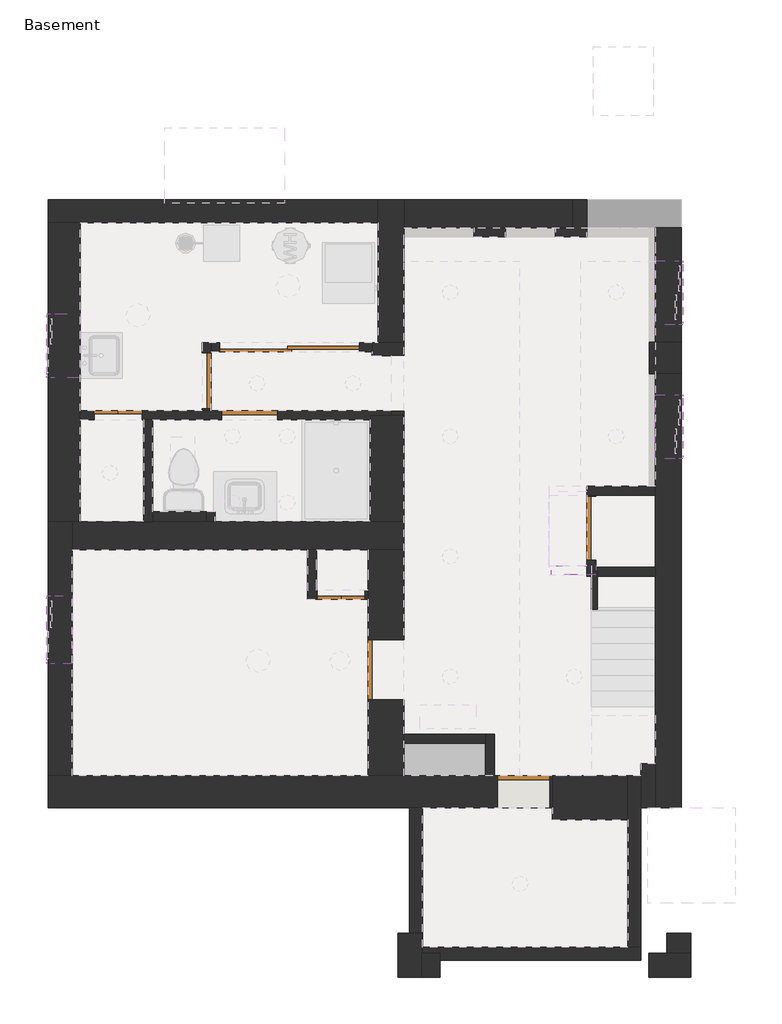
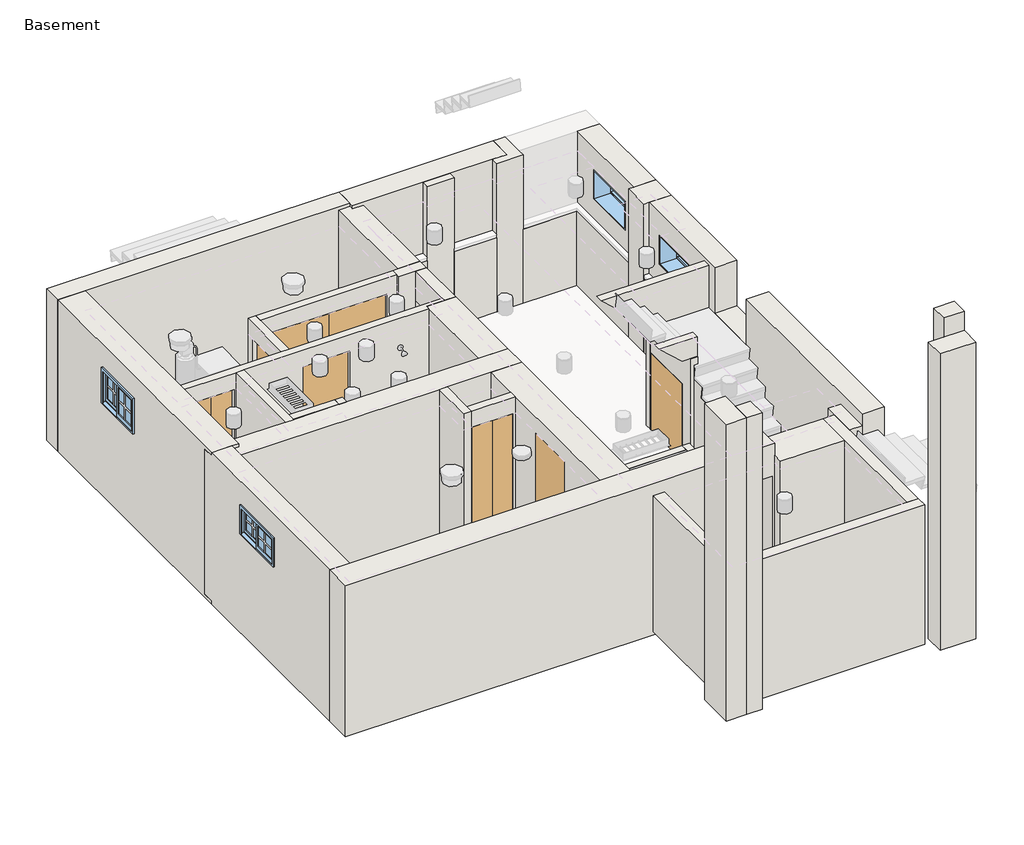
# One storey, part 1 of 2: 45 walls, 8 doors, 4 windows.
"""IFC4 building model written with IfcOpenShell, lengths in millimetres."""

from ifc_helpers import new_model, si_unit, frame, origin, place, context, project, spatial, polyline, outline, extrude, faceted_brep, transform, mapped, element, save
from components import door_2ab74324, door_d050fe0c, door_e4ab5b85, door_826f4222, door_96be22bb, door_c3be8931, window_6e3eade2, window_9998ee06, window_06d2bc5f

model = new_model("IFC4")

# Units and contexts
model_context = context("Model", 3, world=origin())
ifc_project = project(units=[si_unit("LENGTHUNIT", "METRE", prefix="MILLI")], contexts=[model_context])

# Site, building, storey
site = spatial("IfcSite", under=ifc_project)
building = spatial("IfcBuilding", under=site)
storey = spatial("IfcBuildingStorey", under=building, Name="Basement", Elevation=-2336.8)

# Doors
placement = place(None, origin())
door_shape = door_2ab74324(model_context)
element("IfcDoor", 1, ObjectType="Planitar - Single Door_Flush Panel : 2'-4\" x 6'-8\" @45", at=placement, inside=storey, context=model_context, shape_type="MappedRepresentation", body=[
    mapped(door_shape, transform((-3499.25, 3651.25, -2336.8), x_axis=(-1.0, 0.0, 0.0), y_axis=(0.0, -1.0, 0.0), z_axis=(0.0, 0.0, 1.0))),
])
element("IfcDoor", 2, ObjectType="Planitar - Single Door_Flush Panel : 2'-4\" x 6'-8\" @45", at=placement, inside=storey, context=model_context, shape_type="MappedRepresentation", body=[
    mapped(door_shape, transform((-4046.15, 4090.8, -2336.8), x_axis=(0.0, 1.0, 0.0), y_axis=(-1.0, 0.0, 0.0), z_axis=(0.0, 0.0, 1.0))),
])
door_2_shape = door_d050fe0c(model_context)
element("IfcDoor", 3, ObjectType="Planitar - Fold Door : 2'-0\" x 6'-8\"", at=placement, inside=storey, context=model_context, shape_type="MappedRepresentation", body=[
    mapped(door_2_shape, transform((-5170.65, 3651.25, -2336.8), x_axis=(-1.0, 0.0, 0.0), y_axis=(0.0, -1.0, 0.0), z_axis=(0.0, 0.0, 1.0))),
])
element("IfcDoor", 4, ObjectType="Planitar - Fold Door : 2'-0\" x 6'-8\"", at=placement, inside=storey, context=model_context, shape_type="MappedRepresentation", body=[
    mapped(door_2_shape, transform((-2338.0, 1377.95, -2336.8), x_axis=(1.0, 0.0, 0.0), y_axis=(0.0, 1.0, 0.0), z_axis=(0.0, 0.0, 1.0))),
])
door_3_shape = door_e4ab5b85(model_context)
element("IfcDoor", 5, ObjectType="Planitar - Single Door_Flush Panel : 2'-2\" x 6'-8\"", at=placement, inside=storey, context=model_context, shape_type="MappedRepresentation", body=[
    mapped(door_3_shape, transform((-20.25, -1123.95, -2336.8), x_axis=(-1.0, 0.0, 0.0), y_axis=(0.0, -1.0, 0.0), z_axis=(0.0, 0.0, 1.0))),
])
door_4_shape = door_826f4222(model_context)
element("IfcDoor", 6, ObjectType="Planitar - Single Door_Flush Panel : 2'-6\" x 6'-8\"", at=placement, inside=storey, context=model_context, shape_type="MappedRepresentation", body=[
    mapped(door_4_shape, transform((-1766.5, 426.85, -2336.8), x_axis=(0.0, 1.0, 0.0), y_axis=(-1.0, 0.0, 0.0), z_axis=(0.0, 0.0, 1.0))),
])
door_5_shape = door_96be22bb(model_context)
element("IfcDoor", 7, ObjectType="Planitar - Single Door_Flush Panel : 2'-8\" x 6'-8\"", at=placement, inside=storey, context=model_context, shape_type="MappedRepresentation", body=[
    mapped(door_5_shape, transform((837.0, 2217.4070949, -2336.8), x_axis=(0.0, -1.0, 0.0), y_axis=(1.0, 0.0, 0.0), z_axis=(0.0, 0.0, 1.0))),
])
door_6_shape = door_c3be8931(model_context)
element("IfcDoor", 8, ObjectType="Planitar - Double Sliding Door_Flush Panel : 5'-10\" x 6'-8\"", at=placement, inside=storey, context=model_context, shape_type="MappedRepresentation", body=[
    mapped(door_6_shape, transform((-2991.25, 4511.675, -2336.8), x_axis=(1.0, 0.0, 0.0), y_axis=(0.0, 1.0, 0.0), z_axis=(0.0, 0.0, 1.0))),
])

# Walls
element("IfcWall", 9, ObjectType="Planitar - Generic 11 1/2\"", at=placement, inside=storey, context=model_context, shape_type="Brep", body=[
    faceted_brep([(-6059.1, 6096.0, 0.0), (-6059.1, 6096.0, -2387.6), (-5652.7, 6096.0, -2387.6), (-1706.8, 6096.0, -2387.6), (-1706.8, 6096.0, -2336.8), (-1871.9, 6096.0, -2336.8), (-1871.9, 6096.0, -50.8), (-1703.0, 6096.0, -50.8), (-1703.0, 6096.0, 0.0), (-5652.7, 6096.0, 0.0), (-6059.1, 6388.1, -2387.6), (-6059.1, 6388.1, -889.0), (-6059.1, 6388.1, -660.4), (-6059.1, 6388.1, 0.0), (-1868.1, 6388.1, 0.0), (-1703.0, 6388.1, 0.0), (-1703.0, 6388.1, -50.8), (-1871.9, 6388.1, -50.8), (-1871.9, 6388.1, -2336.8), (-1706.8, 6388.1, -2336.8), (-1706.8, 6388.1, -2387.6), (-1703.0, 6121.4, 0.0)], [[[0, 1, 2, 3, 4, 5, 6, 7, 8, 9]], [[10, 11, 12, 13, 14, 15, 16, 17, 18, 19, 20]], [[3, 2, 1, 10, 20]], [[0, 9, 8, 21, 15, 14, 13]], [[4, 3, 20, 19]], [[18, 5, 4, 19]], [[16, 7, 6, 17]], [[5, 18, 17, 6]], [[8, 7, 16, 15, 21]], [[0, 13, 12, 11, 10, 1]]]),
])
element("IfcWall", 10, ObjectType="Planitar - Generic 1' - 1\"", at=placement, inside=storey, context=model_context, shape_type="Brep", body=[
    faceted_brep([(1649.8, 6032.5, 0.0), (1649.8, 6032.5, -2387.6), (1649.8, 4577.0, -2387.6), (1649.8, 4577.0, -2336.8), (1649.8, 4577.0, -1168.4), (1649.8, 4577.0, 0.0), (1649.8, 4798.3616843, -355.6), (1649.8, 4798.3616843, -812.8), (1649.8, 5611.1616843, -812.8), (1649.8, 5611.1616843, -355.6), (1980.0, 6032.5, -2387.6), (1980.0, 6032.5, 0.0), (1980.0, 4577.0, 0.0), (1980.0, 4577.0, -2387.6), (1980.0, 4798.3616843, -355.6), (1980.0, 5611.1616843, -355.6), (1980.0, 5611.1616843, -812.8), (1980.0, 4798.3616843, -812.8)], [[[0, 1, 2, 3, 4, 5], [6, 7, 8, 9]], [[10, 11, 12, 13], [14, 15, 16, 17]], [[2, 1, 10, 13]], [[0, 5, 12, 11]], [[2, 13, 12, 5, 4, 3]], [[0, 11, 10, 1]], [[7, 6, 14, 17]], [[8, 7, 17, 16]], [[9, 8, 16, 15]], [[6, 9, 15, 14]]]),
])
element("IfcWall", 11, ObjectType="Planitar - Generic 1' - 10\"", at=placement, inside=storey, context=model_context, shape_type="SweptSolid", body=[
    extrude(outline(polyline([(1465.65, -768.35), (1649.8, -768.35), (1649.8, -1327.15), (1465.65, -1327.15), (1465.65, -768.35)])), frame((0.0, 0.0, -2387.6), z_axis=(0.0, 0.0, 1.0), x_axis=(1.0, 0.0, 0.0)), (0.0, 0.0, 1.0), 2209.8),
])
element("IfcWall", 12, ObjectType="Planitar - Generic 1' - 0\"", at=placement, inside=storey, context=model_context, shape_type="SweptSolid", body=[
    extrude(outline(polyline([(-920.75, -2387.6), (-920.75, 0.0), (2127.25, 0.0), (2127.25, -50.8), (2305.05, -50.8), (2305.05, -2336.8), (2127.25, -2336.8), (2127.25, -2387.6), (-920.75, -2387.6)]), holes=[polyline([(1365.25, -355.6), (501.65, -355.6), (501.65, -812.8), (1365.25, -812.8), (1365.25, -355.6)])]), frame((-6059.1, 0.0, 0.0), z_axis=(1.0, 0.0, 0.0), x_axis=(0.0, 1.0, 0.0)), (0.0, 0.0, 1.0), 304.8),
])
element("IfcWall", 13, ObjectType="Planitar - Generic 1' - 4\"", at=placement, inside=storey, context=model_context, shape_type="Brep", body=[
    faceted_brep([(-5652.7, 2127.25, -2387.6), (-5652.7, 6096.0, -2387.6), (-5652.7, 6096.0, 0.0), (-5652.7, 2127.25, 0.0), (-5652.7, 2127.25, -50.8), (-5652.7, 2305.05, -50.8), (-5652.7, 2305.05, -2336.8), (-5652.7, 2127.25, -2336.8), (-5652.7, 4940.3, -355.6), (-5652.7, 4940.3, -914.4), (-5652.7, 4127.5, -914.4), (-5652.7, 4127.5, -355.6), (-6059.1, 2127.25, -2387.6), (-6059.1, 2127.25, -2336.8), (-6059.1, 2305.05, -2336.8), (-6059.1, 2305.05, -50.8), (-6059.1, 2127.25, -50.8), (-6059.1, 2127.25, 0.0), (-6059.1, 6096.0, 0.0), (-6059.1, 6096.0, -2387.6), (-6059.1, 4940.3, -355.6), (-6059.1, 4127.5, -355.6), (-6059.1, 4127.5, -914.4), (-6059.1, 4940.3, -914.4), (-5754.3, 2127.25, -2387.6), (-5754.3, 2127.25, 0.0), (-5754.3, 2127.25, -2336.8), (-5754.3, 2305.05, -2336.8), (-5754.3, 2127.25, -50.8), (-5754.3, 2305.05, -50.8)], [[[0, 1, 2, 3, 4, 5, 6, 7], [8, 9, 10, 11]], [[12, 13, 14, 15, 16, 17, 18, 19], [20, 21, 22, 23]], [[1, 0, 24, 12, 19]], [[3, 2, 18, 17, 25]], [[0, 7, 26, 13, 12, 24]], [[6, 27, 14, 13, 26, 7]], [[4, 3, 25, 17, 16, 28]], [[4, 28, 16, 15, 29, 5]], [[6, 5, 29, 15, 14, 27]], [[9, 8, 20, 23]], [[10, 9, 23, 22]], [[11, 10, 22, 21]], [[8, 11, 21, 20]], [[1, 19, 18, 2]]]),
])
element("IfcWall", 14, ObjectType="Planitar - Generic 6 1/2\"", at=placement, inside=storey, context=model_context, shape_type="Brep", body=[
    faceted_brep([(1300.55, -920.75, -2336.8), (1300.55, -1479.55, -2336.8), (1300.55, -3098.8, -2336.8), (1300.55, -3098.8, -190.5), (1300.55, -1479.55, -190.5), (1300.55, -920.75, -190.5), (1465.65, -920.75, -2336.8), (1465.65, -920.75, -190.5), (1465.65, -3098.8, -190.5), (1465.65, -3098.8, -2336.8)], [[[0, 1, 2, 3, 4, 5]], [[6, 7, 8, 9]], [[2, 1, 0, 6, 9]], [[3, 2, 9, 8]], [[5, 4, 3, 8, 7]], [[0, 5, 7, 6]]]),
])
element("IfcWall", 15, ObjectType="Planitar - Generic 6 1/2\"", at=placement, inside=storey, context=model_context, shape_type="Brep", body=[
    faceted_brep([(1465.65, -3098.8, -2387.6), (-1468.05, -3098.8, -2387.6), (-1468.05, -3098.8, -2336.8), (-1468.05, -3098.8, -190.5), (-1302.95, -3098.8, -190.5), (1300.55, -3098.8, -190.5), (1465.65, -3098.8, -190.5), (1465.65, -3098.8, -2336.8), (1465.65, -3263.9, -2387.6), (1465.65, -3263.9, -190.5), (-1468.05, -3263.9, -190.5), (-1468.05, -3263.9, -2387.6)], [[[0, 1, 2, 3, 4, 5, 6, 7]], [[8, 9, 10, 11]], [[1, 0, 8, 11]], [[3, 2, 1, 11, 10]], [[6, 5, 4, 3, 10, 9]], [[0, 7, 6, 9, 8]]]),
])
element("IfcWall", 16, ObjectType="Planitar - Generic 6 1/2\"", at=placement, inside=storey, context=model_context, shape_type="SweptSolid", body=[
    extrude(outline(polyline([(-1302.95, -1327.15), (-1302.95, -3098.8), (-1468.05, -3098.8), (-1468.05, -1327.15), (-1302.95, -1327.15)])), frame((0.0, 0.0, -2336.8), z_axis=(0.0, 0.0, 1.0), x_axis=(1.0, 0.0, 0.0)), (0.0, 0.0, 1.0), 2146.3),
])
element("IfcWall", 17, ObjectType="Planitar - Generic 1' - 2\"", at=placement, inside=storey, context=model_context, shape_type="Brep", body=[
    faceted_brep([(-5754.3, 1949.45, -2336.8), (-2763.45, 1949.45, -2336.8), (-2649.15, 1949.45, -2336.8), (-1995.1, 1949.45, -2336.8), (-1537.9, 1949.45, -2336.8), (-1537.9, 1949.45, -50.8), (-1995.1, 1949.45, -50.8), (-2649.15, 1949.45, -50.8), (-2763.45, 1949.45, -50.8), (-5754.3, 1949.45, -50.8), (-5754.3, 2305.05, -2336.8), (-5754.3, 2305.05, -50.8), (-5652.7, 2305.05, -50.8), (-4846.25, 2305.05, -50.8), (-4731.95, 2305.05, -50.8), (-4052.5, 2305.05, -50.8), (-3938.2, 2305.05, -50.8), (-1969.7, 2305.05, -50.8), (-1537.9, 2305.05, -50.8), (-1537.9, 2305.05, -2336.8), (-1969.7, 2305.05, -2336.8), (-3938.2, 2305.05, -2336.8), (-4052.5, 2305.05, -2336.8), (-4731.95, 2305.05, -2336.8), (-4846.25, 2305.05, -2336.8), (-5652.7, 2305.05, -2336.8), (-5754.3, 2127.25, -2336.8), (-5754.3, 2127.25, -50.8)], [[[0, 1, 2, 3, 4, 5, 6, 7, 8, 9]], [[10, 11, 12, 13, 14, 15, 16, 17, 18, 19, 20, 21, 22, 23, 24, 25]], [[4, 3, 2, 1, 0, 26, 10, 25, 24, 23, 22, 21, 20, 19]], [[9, 8, 7, 6, 5, 18, 17, 16, 15, 14, 13, 12, 11, 27]], [[5, 4, 19, 18]], [[0, 9, 27, 11, 10, 26]]]),
])
element("IfcWall", 18, ObjectType="Planitar - Generic 1' - 1\"", at=placement, inside=storey, context=model_context, shape_type="Brep", body=[
    faceted_brep([(-1871.9, 6388.1, -50.8), (-1871.9, 6388.1, -2336.8), (-1871.9, 6096.0, -2336.8), (-1871.9, 4572.0, -2336.8), (-1871.9, 4572.0, -50.8), (-1871.9, 6096.0, -50.8), (-1541.7, 6388.1, -2336.8), (-1541.7, 6388.1, -50.8), (-1541.7, 6032.5, -50.8), (-1541.7, 4572.0, -50.8), (-1541.7, 4572.0, -2336.8), (-1541.7, 5918.2, -2336.8), (-1541.7, 5994.4, -2336.8), (-1541.7, 6032.5, -2336.8), (-1785.55, 6388.1, -2336.8), (-1706.8, 6388.1, -2336.8), (-1703.0, 6388.1, -50.8)], [[[0, 1, 2, 3, 4, 5]], [[6, 7, 8, 9, 10, 11, 12, 13]], [[3, 2, 1, 14, 15, 6, 13, 12, 11, 10]], [[0, 5, 4, 9, 8, 7, 16]], [[4, 3, 10, 9]], [[0, 16, 7, 6, 15, 14, 1]]]),
])
element("IfcWall", 19, ObjectType="Planitar - Generic 1' - 5\"", at=placement, inside=storey, context=model_context, shape_type="Brep", body=[
    faceted_brep([(-1537.9, 2305.05, -2336.8), (-1537.9, 3651.25, -2336.8), (-1537.9, 3651.25, -50.8), (-1537.9, 2305.05, -50.8), (-1969.7, 2305.05, -2336.8), (-1969.7, 2305.05, -50.8), (-1969.7, 3594.1, -50.8), (-1969.7, 3651.25, -50.8), (-1969.7, 3651.25, -2336.8), (-1969.7, 3594.1, -2336.8), (-1703.0, 3651.25, -2336.8), (-1703.0, 3651.25, -50.8)], [[[0, 1, 2, 3]], [[4, 5, 6, 7, 8, 9]], [[1, 0, 4, 9, 8, 10]], [[2, 1, 10, 8, 7, 11]], [[3, 2, 11, 7, 6, 5]], [[0, 3, 5, 4]]]),
])
element("IfcWall", 20, ObjectType="Planitar - Generic 1' - 6\"", at=placement, inside=storey, context=model_context, shape_type="Brep", body=[
    faceted_brep([(-1995.1, -920.75, -50.8), (-1995.1, 1320.8, -50.8), (-1995.1, 1435.1, -50.8), (-1995.1, 1949.45, -50.8), (-1995.1, 1949.45, -2336.8), (-1995.1, 1435.1, -2336.8), (-1995.1, 1320.8, -2336.8), (-1995.1, 807.85, -2336.8), (-1995.1, 807.85, -304.8), (-1995.1, 45.85, -304.8), (-1995.1, 45.85, -2336.8), (-1995.1, -920.75, -2336.8), (-1537.9, 1949.45, -50.8), (-1537.9, -920.75, -50.8), (-1537.9, -920.75, -2336.8), (-1537.9, -508.0, -2336.8), (-1537.9, -393.7, -2336.8), (-1537.9, 45.85, -2336.8), (-1537.9, 45.85, -304.8), (-1537.9, 807.85, -304.8), (-1537.9, 807.85, -2336.8), (-1537.9, 1949.45, -2336.8)], [[[0, 1, 2, 3, 4, 5, 6, 7, 8, 9, 10, 11]], [[12, 13, 14, 15, 16, 17, 18, 19, 20, 21]], [[14, 11, 10, 17, 16, 15]], [[4, 21, 20, 7, 6, 5]], [[3, 2, 1, 0, 13, 12]], [[4, 3, 12, 21]], [[0, 11, 14, 13]], [[19, 8, 7, 20]], [[8, 19, 18, 9]], [[9, 18, 17, 10]]]),
])
element("IfcWall", 21, ObjectType="Planitar - Generic 6 1/2\"", at=placement, inside=storey, context=model_context, shape_type="Brep", body=[
    faceted_brep([(-1537.9, 4406.9, -50.8), (-1537.9, 3651.25, -50.8), (-1537.9, 3651.25, -2336.8), (-1537.9, 3703.45, -2336.8), (-1537.9, 3703.45, -508.0), (-1537.9, 4406.9, -508.0), (-1703.0, 3651.25, -50.8), (-1703.0, 3708.4, -50.8), (-1703.0, 4406.9, -50.8), (-1703.0, 4406.9, -508.0), (-1703.0, 3703.45, -508.0), (-1703.0, 3703.45, -2336.8), (-1703.0, 3651.25, -2336.8), (-1541.7, 4406.9, -50.8), (-1541.7, 4406.9, -508.0)], [[[0, 1, 2, 3, 4, 5]], [[6, 7, 8, 9, 10, 11, 12]], [[2, 12, 11, 3]], [[1, 0, 13, 8, 7, 6]], [[2, 1, 6, 12]], [[8, 13, 0, 5, 14, 9]], [[10, 4, 3, 11]], [[4, 10, 9, 14, 5]]]),
])
element("IfcWall", 22, ObjectType="Planitar - Generic 4 1/2\"", at=placement, inside=storey, context=model_context, shape_type="Brep", body=[
    faceted_brep([(-5652.7, 3708.4, -50.8), (-4103.3, 3708.4, -50.8), (-3989.0, 3708.4, -50.8), (-1703.0, 3708.4, -50.8), (-1703.0, 3708.4, -2336.8), (-3143.65, 3708.4, -2336.8), (-3143.65, 3708.4, -304.8), (-3854.85, 3708.4, -304.8), (-3854.85, 3708.4, -2336.8), (-3989.0, 3708.4, -2336.8), (-4103.3, 3708.4, -2336.8), (-4865.85, 3708.4, -2336.8), (-4865.85, 3708.4, -304.8), (-5475.45, 3708.4, -304.8), (-5475.45, 3708.4, -2336.8), (-5652.7, 3708.4, -2336.8), (-1969.7, 3594.1, -50.8), (-4731.95, 3594.1, -50.8), (-4846.25, 3594.1, -50.8), (-5652.7, 3594.1, -50.8), (-5652.7, 3594.1, -2336.8), (-5475.45, 3594.1, -2336.8), (-5475.45, 3594.1, -304.8), (-4865.85, 3594.1, -304.8), (-4865.85, 3594.1, -2336.8), (-4846.25, 3594.1, -2336.8), (-4731.95, 3594.1, -2336.8), (-3854.85, 3594.1, -2336.8), (-3854.85, 3594.1, -304.8), (-3143.65, 3594.1, -304.8), (-3143.65, 3594.1, -2336.8), (-1969.7, 3594.1, -2336.8), (-1703.0, 3703.45, -2336.8), (-1703.0, 3651.25, -2336.8), (-1969.7, 3651.25, -2336.8), (-1969.7, 3651.25, -50.8), (-1703.0, 3651.25, -50.8)], [[[0, 1, 2, 3, 4, 5, 6, 7, 8, 9, 10, 11, 12, 13, 14, 15]], [[16, 17, 18, 19, 20, 21, 22, 23, 24, 25, 26, 27, 28, 29, 30, 31]], [[20, 15, 14, 21]], [[4, 32, 33, 34, 31, 30, 5]], [[8, 27, 26, 25, 24, 11, 10, 9]], [[3, 2, 1, 0, 19, 18, 17, 16, 35, 36]], [[4, 3, 36, 33, 32]], [[36, 35, 34, 33]], [[16, 31, 34, 35]], [[0, 15, 20, 19]], [[7, 28, 27, 8]], [[28, 7, 6, 29]], [[29, 6, 5, 30]], [[13, 22, 21, 14]], [[22, 13, 12, 23]], [[23, 12, 11, 24]]]),
])
element("IfcWall", 23, ObjectType="Planitar - Generic 4 1/2\"", at=placement, inside=storey, context=model_context, shape_type="Brep", body=[
    faceted_brep([(-4846.25, 3594.1, -2336.8), (-4846.25, 2305.05, -2336.8), (-4846.25, 2305.05, -50.8), (-4846.25, 3594.1, -50.8), (-4731.95, 3594.1, -2336.8), (-4731.95, 3594.1, -50.8), (-4731.95, 2425.7, -50.8), (-4731.95, 2311.4, -50.8), (-4731.95, 2305.05, -50.8), (-4731.95, 2305.05, -2336.8), (-4731.95, 2311.4, -2336.8), (-4731.95, 2425.7, -2336.8)], [[[0, 1, 2, 3]], [[4, 5, 6, 7, 8, 9, 10, 11]], [[1, 0, 4, 11, 10, 9]], [[3, 2, 8, 7, 6, 5]], [[2, 1, 9, 8]], [[0, 3, 5, 4]]]),
])
element("IfcWall", 24, ObjectType="Planitar - Generic 4 1/2\"", at=placement, inside=storey, context=model_context, shape_type="SweptSolid", body=[
    extrude(outline(polyline([(-4052.5, 2311.4), (-4731.95, 2311.4), (-4731.95, 2425.7), (-4052.5, 2425.7), (-4052.5, 2311.4)])), frame((0.0, 0.0, -2336.8), z_axis=(0.0, 0.0, 1.0), x_axis=(1.0, 0.0, 0.0)), (0.0, 0.0, 1.0), 2286.0),
])
element("IfcWall", 25, ObjectType="Planitar - Generic 4 1/2\"", at=placement, inside=storey, context=model_context, shape_type="Brep", body=[
    faceted_brep([(-4052.5, 2425.7, -2336.8), (-4052.5, 2311.4, -2336.8), (-4052.5, 2305.05, -2336.8), (-4052.5, 2305.05, -50.8), (-4052.5, 2311.4, -50.8), (-4052.5, 2425.7, -50.8), (-3938.2, 2425.7, -2336.8), (-3938.2, 2425.7, -50.8), (-3938.2, 2305.05, -50.8), (-3938.2, 2305.05, -2336.8)], [[[0, 1, 2, 3, 4, 5]], [[6, 7, 8, 9]], [[2, 1, 0, 6, 9]], [[5, 4, 3, 8, 7]], [[0, 5, 7, 6]], [[3, 2, 9, 8]]]),
])
element("IfcWall", 26, ObjectType="Planitar - Generic 4 1/2\"", at=placement, inside=storey, context=model_context, shape_type="Brep", body=[
    faceted_brep([(-3989.0, 4572.0, -50.8), (-3989.0, 4457.7, -50.8), (-3989.0, 3708.4, -50.8), (-3989.0, 3708.4, -2336.8), (-3989.0, 3735.2, -2336.8), (-3989.0, 3735.2, -304.8), (-3989.0, 4446.4, -304.8), (-3989.0, 4446.4, -2336.8), (-3989.0, 4457.7, -2336.8), (-3989.0, 4572.0, -2336.8), (-4103.3, 3708.4, -50.8), (-4103.3, 4572.0, -50.8), (-4103.3, 4572.0, -2336.8), (-4103.3, 4446.4, -2336.8), (-4103.3, 4446.4, -304.8), (-4103.3, 3735.2, -304.8), (-4103.3, 3735.2, -2336.8), (-4103.3, 3708.4, -2336.8)], [[[0, 1, 2, 3, 4, 5, 6, 7, 8, 9]], [[10, 11, 12, 13, 14, 15, 16, 17]], [[3, 17, 16, 4]], [[12, 9, 8, 7, 13]], [[2, 1, 0, 11, 10]], [[3, 2, 10, 17]], [[0, 9, 12, 11]], [[6, 14, 13, 7]], [[14, 6, 5, 15]], [[15, 5, 4, 16]]]),
])
element("IfcWall", 27, ObjectType="Planitar - Generic 4 1/2\"", at=placement, inside=storey, context=model_context, shape_type="SweptSolid", body=[
    extrude(outline(polyline([(-2336.8, -1948.1), (-50.8, -1948.1), (-50.8, -3989.0), (-2336.8, -3989.0), (-2336.8, -3880.25), (-304.8, -3880.25), (-304.8, -2102.25), (-2336.8, -2102.25), (-2336.8, -1948.1)])), frame((0.0, 4457.7, 0.0), z_axis=(0.0, 1.0, 0.0), x_axis=(0.0, 0.0, 1.0)), (0.0, 0.0, 1.0), 114.3),
])
element("IfcWall", 28, ObjectType="Planitar - Generic 6 1/2\"", at=placement, inside=storey, context=model_context, shape_type="Brep", body=[
    faceted_brep([(-1541.7, 4406.9, -50.8), (-1703.0, 4406.9, -50.8), (-1948.1, 4406.9, -50.8), (-1948.1, 4406.9, -2336.8), (-1703.0, 4406.9, -2336.8), (-1703.0, 4406.9, -508.0), (-1541.7, 4406.9, -508.0), (-1541.7, 4572.0, -2336.8), (-1871.9, 4572.0, -2336.8), (-1948.1, 4572.0, -2336.8), (-1948.1, 4572.0, -50.8), (-1871.9, 4572.0, -50.8), (-1541.7, 4572.0, -50.8), (-1541.7, 4414.65, -2336.8), (-1703.0, 4414.65, -2336.8), (-1948.1, 4457.7, -2336.8), (-1948.1, 4457.7, -50.8), (-1541.7, 4414.65, -508.0), (-1703.0, 4414.65, -508.0)], [[[0, 1, 2, 3, 4, 5, 6]], [[7, 8, 9, 10, 11, 12]], [[9, 8, 7, 13, 14, 4, 3, 15]], [[2, 1, 0, 12, 11, 10, 16]], [[3, 2, 16, 10, 9, 15]], [[7, 12, 0, 6, 17, 13]], [[14, 18, 5, 4]], [[18, 14, 13, 17]], [[5, 18, 17, 6]]]),
])
element("IfcWall", 29, ObjectType="Planitar - Generic 4 1/2\"", at=placement, inside=storey, context=model_context, shape_type="Brep", body=[
    faceted_brep([(-2763.45, 1949.45, -2336.8), (-2763.45, 1320.8, -2336.8), (-2763.45, 1320.8, -50.8), (-2763.45, 1949.45, -50.8), (-2649.15, 1949.45, -2336.8), (-2649.15, 1949.45, -50.8), (-2649.15, 1435.1, -50.8), (-2649.15, 1320.8, -50.8), (-2649.15, 1320.8, -2336.8), (-2649.15, 1435.1, -2336.8)], [[[0, 1, 2, 3]], [[4, 5, 6, 7, 8, 9]], [[1, 0, 4, 9, 8]], [[3, 2, 7, 6, 5]], [[0, 3, 5, 4]], [[2, 1, 8, 7]]]),
])
element("IfcWall", 30, ObjectType="Planitar - Generic 4 1/2\"", at=placement, inside=storey, context=model_context, shape_type="SweptSolid", body=[
    extrude(outline(polyline([(-50.8, -1995.1), (-50.8, -2649.15), (-2336.8, -2649.15), (-2336.8, -2642.8), (-304.8, -2642.8), (-304.8, -2033.2), (-2336.8, -2033.2), (-2336.8, -1995.1), (-50.8, -1995.1)])), frame((0.0, 1320.8, 0.0), z_axis=(0.0, 1.0, 0.0), x_axis=(0.0, 0.0, 1.0)), (0.0, 0.0, 1.0), 114.3),
])
element("IfcWall", 31, ObjectType="Planitar - Generic 4 1/2\"", at=placement, inside=storey, context=model_context, shape_type="Brep", body=[
    faceted_brep([(1649.8, 2750.6641898, -2336.8), (1573.6, 2750.6641898, -2336.8), (779.85, 2750.6641898, -2336.8), (779.85, 2750.6641898, -709.8838542), (47.8632232, 2750.6641898, -50.8), (1649.8, 2750.6641898, -50.8), (1649.8, 2750.6641898, -1168.4), (1649.8, 2636.3641898, -2336.8), (1649.8, 2636.3641898, -50.8), (47.8632232, 2636.3641898, -50.8), (779.85, 2636.3641898, -709.8838542), (779.85, 2636.3641898, -2336.8), (894.15, 2636.3641898, -2336.8)], [[[0, 1, 2, 3, 4, 5, 6]], [[7, 8, 9, 10, 11, 12]], [[0, 6, 5, 8, 7]], [[2, 1, 0, 7, 12, 11]], [[5, 4, 9, 8]], [[4, 3, 10, 9]], [[3, 2, 11, 10]]]),
])
element("IfcWall", 32, ObjectType="Planitar - Generic 4 1/2\"", at=placement, inside=storey, context=model_context, shape_type="Brep", body=[
    faceted_brep([(779.85, 1607.95, -609.6), (779.85, 2636.3641898, -609.6), (779.85, 2636.3641898, -709.8838542), (779.85, 2636.3641898, -2336.8), (779.85, 2623.9070949, -2336.8), (779.85, 2623.9070949, -1117.6), (779.85, 1810.9070949, -1117.6), (779.85, 1810.9070949, -2336.8), (779.85, 1607.95, -2336.8), (894.15, 2636.3641898, -609.6), (894.15, 1607.95, -609.6), (894.15, 1607.95, -914.4), (894.15, 1607.95, -2336.8), (894.15, 1722.25, -2336.8), (894.15, 1810.9070949, -2336.8), (894.15, 1810.9070949, -1117.6), (894.15, 2623.9070949, -1117.6), (894.15, 2623.9070949, -2336.8), (894.15, 2636.3641898, -2336.8)], [[[0, 1, 2, 3, 4, 5, 6, 7, 8]], [[9, 10, 11, 12, 13, 14, 15, 16, 17, 18]], [[6, 15, 14, 7]], [[15, 6, 5, 16]], [[16, 5, 4, 17]], [[3, 18, 17, 4]], [[12, 8, 7, 14, 13]], [[1, 0, 10, 9]], [[18, 3, 2, 1, 9]], [[8, 12, 11, 10, 0]]]),
])
element("IfcWall", 33, ObjectType="Planitar - Generic 4 1/2\"", at=placement, inside=storey, context=model_context, shape_type="SweptSolid", body=[
    extrude(outline(polyline([(894.15, 1722.25), (1649.8, 1722.25), (1649.8, 1607.95), (894.15, 1607.95), (894.15, 1722.25)])), frame((0.0, 0.0, -2336.8), z_axis=(0.0, 0.0, 1.0), x_axis=(1.0, 0.0, 0.0)), (0.0, 0.0, 1.0), 1422.4),
])
element("IfcWall", 34, ObjectType="Planitar - Generic 4 1/2\"", at=placement, inside=storey, context=model_context, shape_type="Brep", body=[
    faceted_brep([(-388.55, -920.75, -2336.8), (-388.55, -393.7, -2336.8), (-388.55, -393.7, -304.8), (-388.55, -920.75, -304.8), (-502.85, -920.75, -2336.8), (-502.85, -920.75, -304.8), (-502.85, -508.0, -304.8), (-502.85, -393.7, -304.8), (-502.85, -393.7, -2336.8), (-502.85, -508.0, -2336.8)], [[[0, 1, 2, 3]], [[4, 5, 6, 7, 8, 9]], [[1, 0, 4, 9, 8]], [[3, 2, 7, 6, 5]], [[0, 3, 5, 4]], [[2, 1, 8, 7]]]),
])
element("IfcWall", 35, ObjectType="Planitar - Generic 4 1/2\"", at=placement, inside=storey, context=model_context, shape_type="SweptSolid", body=[
    extrude(outline(polyline([(-1537.9, -393.7), (-502.85, -393.7), (-502.85, -508.0), (-1537.9, -508.0), (-1537.9, -393.7)])), frame((0.0, 0.0, -2336.8), z_axis=(0.0, 0.0, 1.0), x_axis=(1.0, 0.0, 0.0)), (0.0, 0.0, 1.0), 2032.0),
])
element("IfcWall", 36, ObjectType="Planitar - Generic 1' - 4\"", at=placement, inside=storey, context=model_context, shape_type="Brep", body=[
    faceted_brep([(1573.6, 4577.0, 0.0), (1573.6, 4577.0, -1168.4), (1573.6, 4577.0, -2336.8), (1573.6, 4577.0, -2387.6), (1573.6, 4179.7, -2387.6), (1573.6, 4179.7, -2336.8), (1573.6, 4179.7, -1168.4), (1573.6, 4179.7, 0.0), (1980.0, 4577.0, -2387.6), (1980.0, 4577.0, 0.0), (1980.0, 4179.7, 0.0), (1980.0, 4179.7, -2387.6), (1649.8, 4577.0, -2387.6), (1649.8, 4179.7, -2387.6), (1649.8, 4179.7, 0.0), (1649.8, 4577.0, 0.0)], [[[0, 1, 2, 3, 4, 5, 6, 7]], [[8, 9, 10, 11]], [[4, 3, 12, 8, 11, 13]], [[0, 7, 14, 10, 9, 15]], [[0, 15, 9, 8, 12, 3, 2, 1]], [[4, 13, 11, 10, 14, 7, 6, 5]]]),
])
element("IfcWall", 37, ObjectType="Planitar - Generic 1' - 6 1/2\"", at=placement, inside=storey, context=model_context, shape_type="Brep", body=[
    faceted_brep([(383.0, 5918.2, -2387.6), (779.85, 5918.2, -2387.6), (779.85, 5918.2, -2336.8), (779.85, 5918.2, -1168.4), (779.85, 5918.2, 0.0), (383.0, 5918.2, 0.0), (383.0, 5918.2, -1168.4), (383.0, 5918.2, -2336.8), (779.85, 6388.1, 0.0), (779.85, 6388.1, -2387.6), (598.9, 6388.1, -2387.6), (598.9, 6388.1, 0.0), (697.3, 6388.1, 0.0), (383.0, 6032.5, -2387.6), (598.9, 6032.5, -2387.6), (779.85, 6032.5, -2387.6), (779.85, 6032.5, 0.0), (598.9, 6032.5, 0.0), (383.0, 6032.5, 0.0)], [[[0, 1, 2, 3, 4, 5, 6, 7]], [[8, 9, 10, 11, 12]], [[1, 0, 13, 14, 10, 9, 15]], [[5, 4, 16, 8, 12, 11, 17, 18]], [[0, 7, 6, 5, 18, 13]], [[17, 14, 13, 18]], [[14, 17, 11, 10]], [[1, 15, 9, 8, 16, 4, 3, 2]]]),
])
element("IfcWall", 38, ObjectType="Planitar - Generic 1' - 2\"", at=placement, inside=storey, context=model_context, shape_type="Brep", body=[
    faceted_brep([(-1785.55, 6032.5, -2387.6), (-653.4, 6032.5, -2387.6), (-252.0, 6032.5, -2387.6), (383.0, 6032.5, -2387.6), (598.9, 6032.5, -2387.6), (598.9, 6032.5, 0.0), (383.0, 6032.5, 0.0), (-252.0, 6032.5, 0.0), (-653.4, 6032.5, 0.0), (-1703.0, 6032.5, 0.0), (-1703.0, 6032.5, -50.8), (-1541.7, 6032.5, -50.8), (-1541.7, 6032.5, -2336.8), (-1785.55, 6032.5, -2336.8), (-1785.55, 6388.1, -2387.6), (-1785.55, 6388.1, -2336.8), (-1541.7, 6388.1, -2336.8), (-1541.7, 6388.1, -50.8), (-1703.0, 6388.1, -50.8), (-1703.0, 6388.1, 0.0), (598.9, 6388.1, 0.0), (598.9, 6388.1, -2387.6), (-1703.0, 6235.7, 0.0), (-1703.0, 6121.4, 0.0), (-1703.0, 6096.0, 0.0), (-1703.0, 6096.0, -50.8)], [[[0, 1, 2, 3, 4, 5, 6, 7, 8, 9, 10, 11, 12, 13]], [[14, 15, 16, 17, 18, 19, 20, 21]], [[4, 3, 2, 1, 0, 14, 21]], [[5, 4, 21, 20]], [[9, 8, 7, 6, 5, 20, 19, 22, 23, 24]], [[0, 13, 15, 14]], [[12, 16, 15, 13]], [[10, 25, 18, 17, 11]], [[11, 17, 16, 12]], [[10, 9, 24, 23, 22, 19, 18, 25]]]),
])
element("IfcWall", 39, ObjectType="Planitar - Generic 1' - 6 1/2\"", at=placement, inside=storey, context=model_context, shape_type="Brep", body=[
    faceted_brep([(-653.4, 5918.2, -2387.6), (-252.0, 5918.2, -2387.6), (-252.0, 5918.2, -2336.8), (-252.0, 5918.2, -1168.4), (-252.0, 5918.2, -1117.6), (-252.0, 5918.2, 0.0), (-653.4, 5918.2, 0.0), (-653.4, 5918.2, -1117.6), (-653.4, 5918.2, -1168.4), (-653.4, 5918.2, -2336.8), (-653.4, 6032.5, -2387.6), (-252.0, 6032.5, -2387.6), (-252.0, 6032.5, 0.0), (-653.4, 6032.5, 0.0), (-653.4, 6032.5, -1117.6), (-653.4, 6032.5, -1168.4), (-252.0, 6032.5, -1168.4), (-252.0, 6032.5, -1117.6)], [[[0, 1, 2, 3, 4, 5, 6, 7, 8, 9]], [[1, 0, 10, 11]], [[6, 5, 12, 13]], [[0, 9, 8, 7, 6, 13, 14, 15, 10]], [[3, 2, 1, 11, 16, 17, 12, 5, 4]], [[11, 10, 15, 14, 13, 12, 17, 16]]]),
])
element("IfcWall", 40, ObjectType="Planitar - Generic 1' - 1\"", at=placement, inside=storey, context=model_context, shape_type="Brep", body=[
    faceted_brep([(1649.8, 4179.7, -2387.6), (1649.8, -768.35, -2387.6), (1649.8, -1327.15, -2387.6), (1649.8, -1327.15, -177.8), (1649.8, -1327.15, 0.0), (1649.8, 1665.1, 0.0), (1649.8, 1665.1, -719.0153846), (1649.8, 2484.35, -719.0153846), (1649.8, 2484.35, 0.0), (1649.8, 4179.7, 0.0), (1649.8, 4179.7, -1168.4), (1649.8, 4179.7, -2336.8), (1649.8, 3099.9141898, -355.6), (1649.8, 3099.9141898, -812.8), (1649.8, 3912.7141898, -812.8), (1649.8, 3912.7141898, -355.6), (1980.0, -1327.15, -2387.6), (1980.0, 4179.7, -2387.6), (1980.0, 4179.7, 0.0), (1980.0, 2484.35, 0.0), (1980.0, 2484.35, -719.0153846), (1980.0, 1665.1, -719.0153846), (1980.0, 1665.1, 0.0), (1980.0, -1327.15, 0.0), (1980.0, 3099.9141898, -812.8), (1980.0, 3099.9141898, -355.6), (1980.0, 3912.7141898, -355.6), (1980.0, 3912.7141898, -812.8)], [[[0, 1, 2, 3, 4, 5, 6, 7, 8, 9, 10, 11], [12, 13, 14, 15]], [[16, 17, 18, 19, 20, 21, 22, 23], [24, 25, 26, 27]], [[4, 3, 2, 16, 23]], [[2, 1, 0, 17, 16]], [[5, 4, 23, 22]], [[6, 5, 22, 21]], [[7, 6, 21, 20]], [[8, 7, 20, 19]], [[9, 8, 19, 18]], [[17, 0, 11, 10, 9, 18]], [[12, 25, 24, 13]], [[13, 24, 27, 14]], [[14, 27, 26, 15]], [[25, 12, 15, 26]]]),
])
element("IfcWall", 41, ObjectType="Planitar - Generic 1' - 4\"", at=placement, inside=storey, context=model_context, shape_type="Brep", body=[
    faceted_brep([(341.7, -920.75, 0.0), (341.7, -920.75, -190.5), (341.7, -920.75, -2336.8), (341.7, -920.75, -2387.6), (-5754.3, -920.75, -2387.6), (-6059.1, -920.75, -2387.6), (-6059.1, -920.75, 0.0), (-5754.3, -920.75, 0.0), (309.95, -920.75, -2336.8), (309.95, -920.75, -508.0), (-350.45, -920.75, -508.0), (-350.45, -920.75, -2336.8), (341.7, -1327.15, -2387.6), (341.7, -1327.15, -190.5), (341.7, -1327.15, 0.0), (-6059.1, -1327.15, 0.0), (-6059.1, -1327.15, -2387.6), (309.95, -1327.15, -2336.8), (-350.45, -1327.15, -2336.8), (-350.45, -1327.15, -508.0), (309.95, -1327.15, -508.0), (341.7, -1162.05, 0.0)], [[[0, 1, 2, 3, 4, 5, 6, 7], [8, 9, 10, 11]], [[12, 13, 14, 15, 16], [17, 18, 19, 20]], [[5, 4, 3, 12, 16]], [[0, 7, 6, 15, 14, 21]], [[6, 5, 16, 15]], [[17, 20, 9, 8]], [[20, 19, 10, 9]], [[19, 18, 11, 10]], [[18, 17, 8, 11]], [[0, 21, 14, 13, 12, 3, 2, 1]]]),
])
element("IfcWall", 42, ObjectType="Planitar - Generic 1' - 10\"", at=placement, inside=storey, context=model_context, shape_type="Brep", body=[
    faceted_brep([(1300.55, -920.75, -2336.8), (341.7, -920.75, -2336.8), (341.7, -920.75, -190.5), (1300.55, -920.75, -190.5), (1300.55, -1479.55, -2336.8), (1300.55, -1479.55, -190.5), (341.7, -1479.55, -190.5), (341.7, -1479.55, -2336.8), (341.7, -1327.15, -190.5), (341.7, -1162.05, -190.5)], [[[0, 1, 2, 3]], [[4, 5, 6, 7]], [[1, 0, 4, 7]], [[2, 1, 7, 6, 8, 9]], [[3, 2, 9, 8, 6, 5]], [[0, 3, 5, 4]]]),
])
element("IfcWall", 43, ObjectType="Planitar - Generic 3\"", at=placement, inside=storey, context=model_context, shape_type="Brep", body=[
    faceted_brep([(1573.6, 5994.4, -2336.8), (1573.6, 5918.2, -2336.8), (1573.6, 4577.0, -2336.8), (1573.6, 4577.0, -1168.4), (1573.6, 5918.2, -1168.4), (1573.6, 5994.4, -1168.4), (1649.8, 5994.4, -2336.8), (1649.8, 5994.4, -1168.4), (1649.8, 4577.0, -1168.4), (1649.8, 4577.0, -2336.8)], [[[0, 1, 2, 3, 4, 5]], [[6, 7, 8, 9]], [[2, 1, 0, 6, 9]], [[3, 2, 9, 8]], [[5, 4, 3, 8, 7]], [[0, 5, 7, 6]]]),
])
element("IfcWall", 44, ObjectType="Planitar - Generic 3\"", at=placement, inside=storey, context=model_context, shape_type="SweptSolid", body=[
    extrude(outline(polyline([(1573.6, 2750.6641898), (1573.6, 4179.7), (1649.8, 4179.7), (1649.8, 2750.6641898), (1573.6, 2750.6641898)])), frame((0.0, 0.0, -2336.8), z_axis=(0.0, 0.0, 1.0), x_axis=(1.0, 0.0, 0.0)), (0.0, 0.0, 1.0), 1168.4),
])
element("IfcWall", 45, ObjectType="Planitar - Generic 3\"", at=placement, inside=storey, context=model_context, shape_type="SweptSolid", body=[
    extrude(outline(polyline([(1670.05, -2336.8), (-4.2914983, -2336.8), (-22.3375442, -2207.0461538), (204.6525088, -2207.0461538), (179.6525088, -2027.2923077), (406.6425617, -2027.2923077), (381.6425617, -1847.5384615), (608.6326147, -1847.5384615), (583.6326147, -1667.7846154), (810.6226677, -1667.7846154), (785.6226677, -1488.0307692), (1012.6127206, -1488.0307692), (987.6127206, -1308.2769231), (1214.6027736, -1308.2769231), (1189.6027736, -1128.5230769), (1416.5928265, -1128.5230769), (1391.5928265, -948.7692308), (1618.5828795, -948.7692308), (1592.6071862, -762.0), (1670.05, -762.0), (1670.05, -2336.8)])), frame((837.0, 0.0, 0.0), z_axis=(1.0, 0.0, 0.0), x_axis=(0.0, 1.0, 0.0)), (0.0, 0.0, 1.0), 76.2),
])
element("IfcWall", 46, ObjectType="Planitar - Generic 4 1/2\"", at=placement, inside=storey, context=model_context, shape_type="SweptSolid", body=[
    extrude(outline(polyline([(-609.6, 894.15), (-304.8, 894.15), (-304.8, 329.958802), (-609.6, 668.4734965), (-609.6, 894.15)])), frame((0.0, 1627.0, 0.0), z_axis=(0.0, 1.0, 0.0), x_axis=(0.0, 0.0, 1.0)), (0.0, 0.0, 1.0), 114.3),
])
element("IfcWall", 47, ObjectType="Planitar - Generic 1' - 0\"", at=placement, inside=storey, context=model_context, shape_type="Brep", body=[
    faceted_brep([(1567.25, -3479.8, -2387.6), (2100.65, -3479.8, -2387.6), (2100.65, -3479.8, 2286.0), (1567.25, -3479.8, 2286.0), (1567.25, -3175.0, -2387.6), (1567.25, -3175.0, -190.5), (1567.25, -3175.0, 723.9), (1567.25, -3175.0, 2286.0), (2100.65, -3175.0, 2286.0), (2100.65, -3175.0, -2387.6), (1795.85, -3175.0, -2387.6)], [[[0, 1, 2, 3]], [[4, 5, 6, 7, 8, 9, 10]], [[1, 0, 4, 10, 9]], [[3, 2, 8, 7]], [[0, 3, 7, 6, 5, 4]], [[2, 1, 9, 8]]]),
])
element("IfcWall", 48, ObjectType="Planitar - Generic 1' - 0\"", at=placement, inside=storey, context=model_context, shape_type="Brep", body=[
    faceted_brep([(2100.65, -3175.0, -2387.6), (2100.65, -2921.0, -2387.6), (2100.65, -2921.0, 2590.8), (2100.65, -3175.0, 2590.8), (2100.65, -3175.0, 2286.0), (1795.85, -3175.0, -2387.6), (1795.85, -3175.0, 2590.8), (1795.85, -2921.0, 2590.8), (1795.85, -2921.0, -2387.6)], [[[0, 1, 2, 3, 4]], [[5, 6, 7, 8]], [[1, 0, 5, 8]], [[2, 1, 8, 7]], [[3, 2, 7, 6]], [[0, 4, 3, 6, 5]]]),
])
element("IfcWall", 49, ObjectType="Planitar - Generic 3\"", at=placement, inside=storey, context=model_context, shape_type="SweptSolid", body=[
    extrude(outline(polyline([(779.85, 5994.4), (1573.6, 5994.4), (1573.6, 5918.2), (779.85, 5918.2), (779.85, 5994.4)])), frame((0.0, 0.0, -2336.8), z_axis=(0.0, 0.0, 1.0), x_axis=(1.0, 0.0, 0.0)), (0.0, 0.0, 1.0), 1168.4),
])
element("IfcWall", 50, ObjectType="Planitar - Generic 3\"", at=placement, inside=storey, context=model_context, shape_type="SweptSolid", body=[
    extrude(outline(polyline([(-252.0, 5994.4), (383.0, 5994.4), (383.0, 5918.2), (-252.0, 5918.2), (-252.0, 5994.4)])), frame((0.0, 0.0, -2336.8), z_axis=(0.0, 0.0, 1.0), x_axis=(1.0, 0.0, 0.0)), (0.0, 0.0, 1.0), 1168.4),
])
element("IfcWall", 51, ObjectType="Planitar - Generic 3\"", at=placement, inside=storey, context=model_context, shape_type="SweptSolid", body=[
    extrude(outline(polyline([(-1541.7, 5994.4), (-653.4, 5994.4), (-653.4, 5918.2), (-1541.7, 5918.2), (-1541.7, 5994.4)])), frame((0.0, 0.0, -2336.8), z_axis=(0.0, 0.0, 1.0), x_axis=(1.0, 0.0, 0.0)), (0.0, 0.0, 1.0), 1168.4),
])
element("IfcWall", 52, ObjectType="Planitar - Generic 1' - 0\"", at=placement, inside=storey, context=model_context, shape_type="Brep", body=[
    faceted_brep([(-1084.7554062, -3175.0, 2286.0), (-1084.7554062, -3175.0, 723.9), (-1084.7554062, -3175.0, -190.5), (-1084.7554062, -3175.0, -2387.6), (-1313.3554062, -3175.0, -2387.6), (-1313.3554062, -3175.0, 2286.0), (-1084.7554062, -3479.8, -2387.6), (-1084.7554062, -3479.8, 2286.0), (-1313.3554062, -3479.8, 2286.0), (-1313.3554062, -3479.8, -2387.6)], [[[0, 1, 2, 3, 4, 5]], [[6, 7, 8, 9]], [[3, 6, 9, 4]], [[7, 0, 5, 8]], [[3, 2, 1, 0, 7, 6]], [[5, 4, 9, 8]]]),
])
element("IfcWall", 53, ObjectType="Planitar - Generic 1' - 0\"", at=placement, inside=storey, context=model_context, shape_type="Brep", body=[
    faceted_brep([(-1313.3554062, -3479.8, -2387.6), (-1313.3554062, -3175.0, -2387.6), (-1313.3554062, -2921.0, -2387.6), (-1313.3554062, -2921.0, -190.5), (-1313.3554062, -2921.0, 723.9), (-1313.3554062, -2921.0, 2286.0), (-1313.3554062, -3175.0, 2286.0), (-1313.3554062, -3479.8, 2286.0), (-1618.1554062, -3479.8, -2387.6), (-1618.1554062, -3479.8, 2286.0), (-1618.1554062, -2921.0, 2286.0), (-1618.1554062, -2921.0, -2387.6)], [[[0, 1, 2, 3, 4, 5, 6, 7]], [[8, 9, 10, 11]], [[2, 1, 0, 8, 11]], [[5, 4, 3, 2, 11, 10]], [[7, 6, 5, 10, 9]], [[0, 7, 9, 8]]]),
])

# Windows
window_shape = window_6e3eade2(model_context)
element("IfcWindow", 54, ObjectType="Planitar-Sliding-Double : 60\" x 48\"", at=placement, inside=storey, context=model_context, shape_type="MappedRepresentation", body=[
    mapped(window_shape, transform((1818.71, 3506.3141898, -1727.2), x_axis=(0.0, -1.0, 0.0), y_axis=(1.0, 0.0, 0.0), z_axis=(0.0, 0.0, 1.0))),
])
element("IfcWindow", 55, ObjectType="Planitar-Sliding-Double : 60\" x 48\"", at=placement, inside=storey, context=model_context, shape_type="MappedRepresentation", body=[
    mapped(window_shape, transform((1818.71, 5204.7616843, -1727.2), x_axis=(0.0, -1.0, 0.0), y_axis=(1.0, 0.0, 0.0), z_axis=(0.0, 0.0, 1.0))),
])
window_2_shape = window_9998ee06(model_context)
element("IfcWindow", 56, ObjectType="Planitar-Sliding-Double : 60\" x 48\"", at=placement, inside=storey, context=model_context, shape_type="MappedRepresentation", body=[
    mapped(window_2_shape, transform((-5859.71, 4533.9, -1828.8), x_axis=(0.0, 1.0, 0.0), y_axis=(-1.0, 0.0, 0.0), z_axis=(0.0, 0.0, 1.0))),
])
window_3_shape = window_06d2bc5f(model_context)
element("IfcWindow", 57, ObjectType="Planitar-Sliding-Double : 60\" x 48\"", at=placement, inside=storey, context=model_context, shape_type="MappedRepresentation", body=[
    mapped(window_3_shape, transform((-5910.51, 933.45, -1727.2), x_axis=(0.0, 1.0, 0.0), y_axis=(-1.0, 0.0, 0.0), z_axis=(0.0, 0.0, 1.0))),
])

save(model, "model.ifc")
